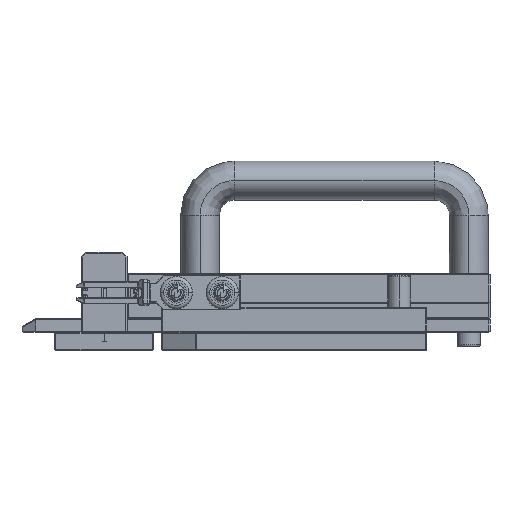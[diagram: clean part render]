
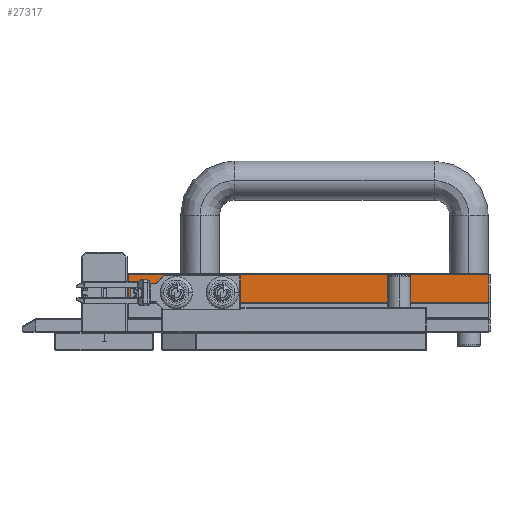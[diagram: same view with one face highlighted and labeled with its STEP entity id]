
A CAD part, front view. The second image highlights one B-rep face of the part: STEP entity #27317.
In plain terms, the highlighted planar face has unit normal (0, -1, 0) as drawn and (-1, 0, 0) by its records, which use the part's own axes.
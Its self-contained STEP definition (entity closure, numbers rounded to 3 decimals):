
#22113=DIRECTION('',(0.,0.,-1.));
#22114=VECTOR('',#22113,12.);
#22115=CARTESIAN_POINT('',(-13.,-54.875,-10.1));
#22116=LINE('',#22115,#22114);
#22120=DIRECTION('',(0.,1.,0.));
#22121=VECTOR('',#22120,157.);
#22122=CARTESIAN_POINT('',(-13.,-54.875,-22.1));
#22123=LINE('',#22122,#22121);
#22127=DIRECTION('',(0.,0.,-1.));
#22128=VECTOR('',#22127,12.);
#22129=CARTESIAN_POINT('',(-13.,102.125,-10.1));
#22130=LINE('',#22129,#22128);
#22134=DIRECTION('',(0.,1.,0.));
#22135=VECTOR('',#22134,157.);
#22136=CARTESIAN_POINT('',(-13.,-54.875,-10.1));
#22137=LINE('',#22136,#22135);
#22141=CARTESIAN_POINT('',(-13.,-13.975,-14.3));
#22142=DIRECTION('',(1.,0.,0.));
#22143=DIRECTION('',(0.,-1.,0.));
#22144=AXIS2_PLACEMENT_3D('',#22141,#22142,#22143);
#22149=CARTESIAN_POINT('',(-13.,-13.975,-14.3));
#22150=DIRECTION('',(1.,0.,0.));
#22151=DIRECTION('',(0.,1.,0.));
#22152=AXIS2_PLACEMENT_3D('',#22149,#22150,#22151);
#22157=CARTESIAN_POINT('',(-13.,-33.975,-14.3));
#22158=DIRECTION('',(1.,0.,0.));
#22159=DIRECTION('',(0.,-1.,0.));
#22160=AXIS2_PLACEMENT_3D('',#22157,#22158,#22159);
#22165=CARTESIAN_POINT('',(-13.,-33.975,-14.3));
#22166=DIRECTION('',(1.,0.,0.));
#22167=DIRECTION('',(0.,1.,0.));
#22168=AXIS2_PLACEMENT_3D('',#22165,#22166,#22167);
#25077=CARTESIAN_POINT('',(-13.,-54.875,-10.1));
#25078=CARTESIAN_POINT('',(-13.,-54.875,-22.1));
#25079=VERTEX_POINT('',#25077);
#25080=VERTEX_POINT('',#25078);
#25085=CARTESIAN_POINT('',(-13.,102.125,-10.1));
#25086=CARTESIAN_POINT('',(-13.,102.125,-22.1));
#25087=VERTEX_POINT('',#25085);
#25088=VERTEX_POINT('',#25086);
#25213=CARTESIAN_POINT('',(-13.,-16.125,-14.3));
#25214=CARTESIAN_POINT('',(-13.,-11.825,-14.3));
#25215=VERTEX_POINT('',#25213);
#25216=VERTEX_POINT('',#25214);
#25221=CARTESIAN_POINT('',(-13.,-36.125,-14.3));
#25222=CARTESIAN_POINT('',(-13.,-31.825,-14.3));
#25223=VERTEX_POINT('',#25221);
#25224=VERTEX_POINT('',#25222);
#27293=CARTESIAN_POINT('',(-13.,102.625,-22.6));
#27294=DIRECTION('',(-1.,0.,0.));
#27295=DIRECTION('',(0.,-1.,0.));
#27296=AXIS2_PLACEMENT_3D('',#27293,#27294,#27295);
#27297=PLANE('',#27296);
#27298=ORIENTED_EDGE('',*,*,#27272,.T.);
#27299=ORIENTED_EDGE('',*,*,#27113,.T.);
#27301=ORIENTED_EDGE('',*,*,#27300,.F.);
#27302=ORIENTED_EDGE('',*,*,#27242,.F.);
#27303=EDGE_LOOP('',(#27298,#27299,#27301,#27302));
#27304=FACE_OUTER_BOUND('',#27303,.F.);
#27306=ORIENTED_EDGE('',*,*,#27305,.F.);
#27308=ORIENTED_EDGE('',*,*,#27307,.F.);
#27309=EDGE_LOOP('',(#27306,#27308));
#27310=FACE_BOUND('',#27309,.F.);
#27312=ORIENTED_EDGE('',*,*,#27311,.F.);
#27314=ORIENTED_EDGE('',*,*,#27313,.F.);
#27315=EDGE_LOOP('',(#27312,#27314));
#27316=FACE_BOUND('',#27315,.F.);
#22145=CIRCLE('',#22144,2.15);
#22153=CIRCLE('',#22152,2.15);
#22161=CIRCLE('',#22160,2.15);
#22169=CIRCLE('',#22168,2.15);
#27113=EDGE_CURVE('',#25080,#25088,#22123,.T.);
#27242=EDGE_CURVE('',#25079,#25087,#22137,.T.);
#27272=EDGE_CURVE('',#25079,#25080,#22116,.T.);
#27300=EDGE_CURVE('',#25087,#25088,#22130,.T.);
#27305=EDGE_CURVE('',#25215,#25216,#22145,.T.);
#27307=EDGE_CURVE('',#25216,#25215,#22153,.T.);
#27311=EDGE_CURVE('',#25223,#25224,#22161,.T.);
#27313=EDGE_CURVE('',#25224,#25223,#22169,.T.);
#27317=ADVANCED_FACE('',(#27304,#27310,#27316),#27297,.T.);
